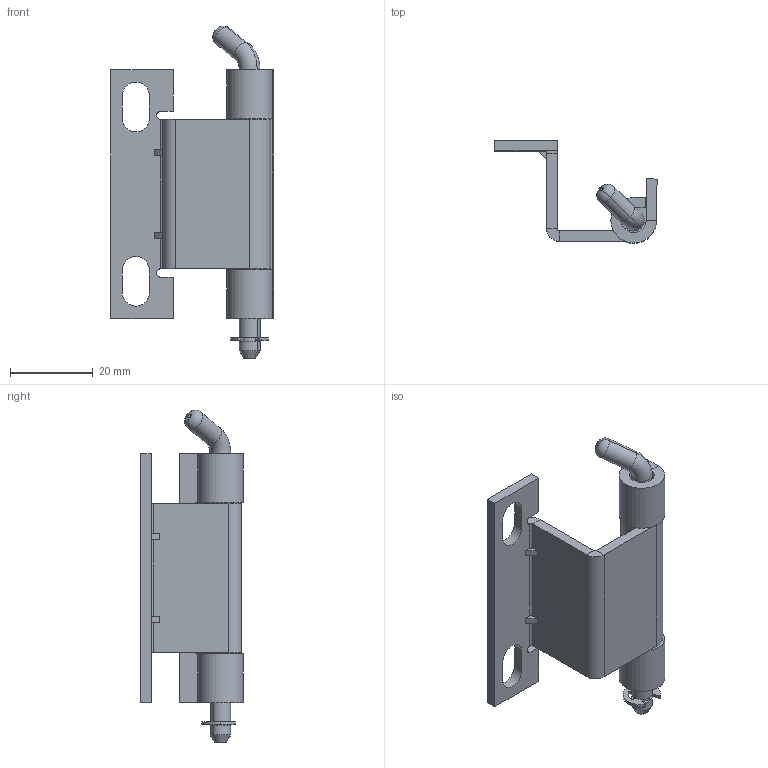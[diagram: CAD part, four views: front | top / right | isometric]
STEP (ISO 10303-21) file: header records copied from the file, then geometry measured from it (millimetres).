
FILE_DESCRIPTION (( 'STEP AP214' ), '1' );
FILE_NAME ('3.ST4-1.001.STEP', '2010-06-08T15:34:44', ( '£ukasz Cieæka' ), ( '' ), 'SwSTEP 2.0', 'SolidWorks 2010', '' );
FILE_SCHEMA (( 'AUTOMOTIVE_DESIGN' ));
Length unit declared in the file: millimetre
Products named in the file (5): ST4-1 czêœæ wewn.; 3B.St4.00.00.03; 3B.St4.00.00.02; DIN 6799 - 4; 3.ST4-1.001
Assembly tree (4 placements, depth 2):
  3.ST4-1.001
    ST4-1 czêœæ wewn.
    3B.St4.00.00.03
    DIN 6799 - 4
    3B.St4.00.00.02
Bounding box: 39.09 x 24.7 x 80.03 mm (x, y, z)
Volume: 11084 mm3; surface area: 10464.4 mm2
Topology: 4 solids, 4 shells, 117 faces, 287 edges, 182 vertices
Faces by surface type: plane 62, cylinder 49, torus 4, cone 2
Entity records: 3729 total; most frequent: CARTESIAN_POINT 685, DIRECTION 633, ORIENTED_EDGE 574, EDGE_CURVE 287, AXIS2_PLACEMENT_3D 226, VERTEX_POINT 182, LINE 181, VECTOR 181
